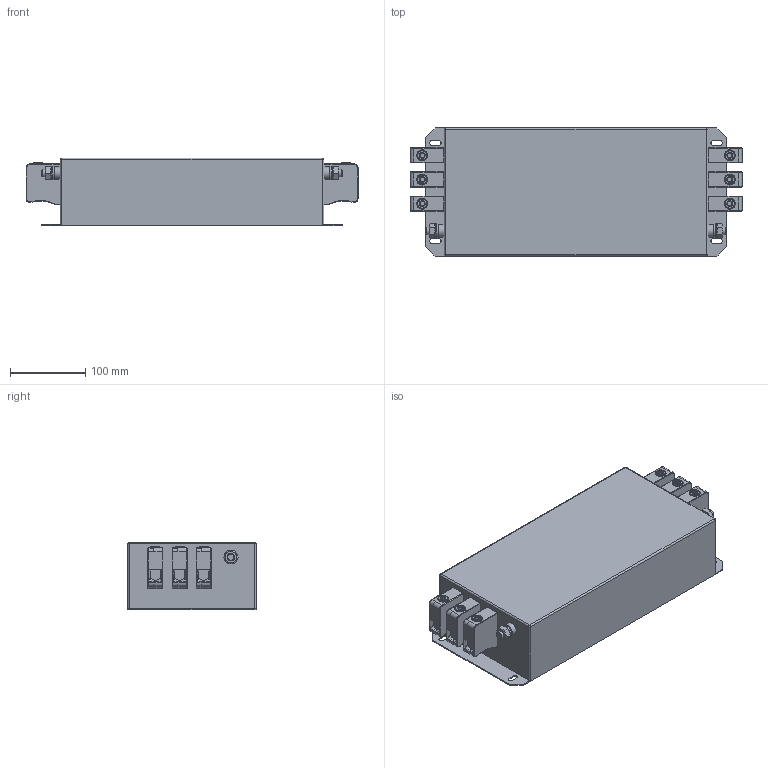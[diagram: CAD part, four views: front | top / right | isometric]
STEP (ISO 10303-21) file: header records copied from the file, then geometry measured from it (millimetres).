
FILE_DESCRIPTION((''),'2;1');
FILE_NAME('L:\INVENTOR_Projektedaten\HousingDesign\FN351-110-35.stp','2012-10-16T14:24:39',('Samuel.Meier'),(''),'Autodesk Inventor 2010','Autodesk Inventor 2010','');
FILE_SCHEMA(('AUTOMOTIVE_DESIGN { 1 2 10303 214 0 1 1 1 }'));
Length unit declared in the file: millimetre
Products named in the file (1): Bauteil4
Bounding box: 440.4 x 170 x 90 mm (x, y, z)
Volume: 5644253.6 mm3; surface area: 271914.8 mm2
Topology: 1 solids, 1 shells, 492 faces, 1118 edges, 686 vertices
Faces by surface type: bspline 233, plane 139, cylinder 79, torus 30, cone 7, sphere 4
Full cylindrical faces by diameter (mm): 3.3 x12, 6.8 x3, 10 x4, 10.5 x2, 16.5 x1, 18 x2
Entity records: 16477 total; most frequent: CARTESIAN_POINT 6046, ORIENTED_EDGE 2084, DIRECTION 1762, EDGE_CURVE 1042, VERTEX_POINT 680, AXIS2_PLACEMENT_3D 634, EDGE_LOOP 632, VECTOR 494
